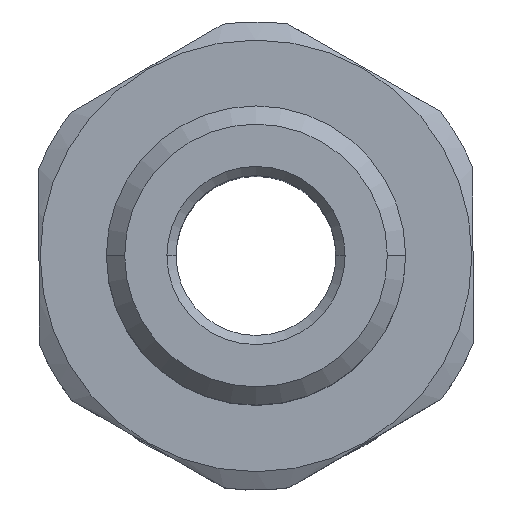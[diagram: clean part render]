
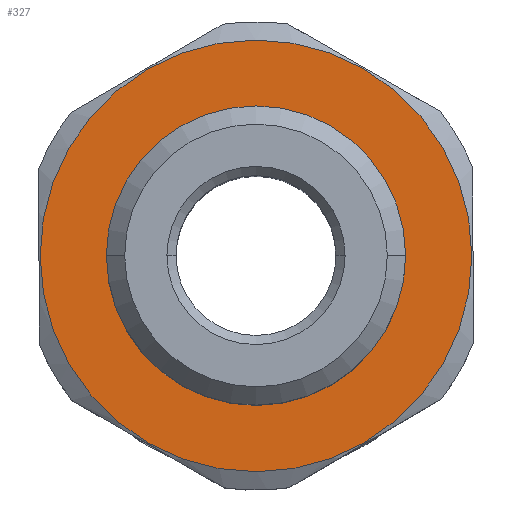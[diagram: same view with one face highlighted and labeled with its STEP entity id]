
A CAD part, top view. The second image highlights one B-rep face of the part: STEP entity #327.
In plain terms, the highlighted planar face has unit normal (0, 0, 1).
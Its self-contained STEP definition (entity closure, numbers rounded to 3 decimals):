
#327 = ADVANCED_FACE ( 'NONE', ( #1716, #1717 ), #1987, .F. ) ;
#350 = EDGE_CURVE ( 'NONE', #874, #871, #505, .T. ) ;
#351 = EDGE_CURVE ( 'NONE', #900, #897, #508, .T. ) ;
#505 = CIRCLE ( 'NONE', #507, 6.55 ) ;
#507 = AXIS2_PLACEMENT_3D ( 'NONE', #1021, #1022, #1023 ) ;
#508 = CIRCLE ( 'NONE', #509, 9.45 ) ;
#509 = AXIS2_PLACEMENT_3D ( 'NONE', #1024, #1025, #1026 ) ;
#546 = CIRCLE ( 'NONE', #556, 9.45 ) ;
#556 = AXIS2_PLACEMENT_3D ( 'NONE', #1179, #1180, #1181 ) ;
#589 = CIRCLE ( 'NONE', #603, 6.55 ) ;
#603 = AXIS2_PLACEMENT_3D ( 'NONE', #1769, #1770, #1771 ) ;
#665 = EDGE_CURVE ( 'NONE', #897, #900, #546, .T. ) ;
#769 = EDGE_CURVE ( 'NONE', #871, #874, #589, .T. ) ;
#871 = VERTEX_POINT ( 'NONE', #1829 ) ;
#874 = VERTEX_POINT ( 'NONE', #1832 ) ;
#897 = VERTEX_POINT ( 'NONE', #1855 ) ;
#900 = VERTEX_POINT ( 'NONE', #1858 ) ;
#908 = ORIENTED_EDGE ( 'NONE', *, *, #350, .T. ) ;
#924 = ORIENTED_EDGE ( 'NONE', *, *, #769, .T. ) ;
#931 = ORIENTED_EDGE ( 'NONE', *, *, #351, .F. ) ;
#934 = ORIENTED_EDGE ( 'NONE', *, *, #665, .F. ) ;
#966 = EDGE_LOOP ( 'NONE', ( #934, #931 ) ) ;
#977 = EDGE_LOOP ( 'NONE', ( #924, #908 ) ) ;
#1021 = CARTESIAN_POINT ( 'NONE',  ( 0., 0., 5. ) ) ;
#1022 = DIRECTION ( 'NONE',  ( 0., 0., -1. ) ) ;
#1023 = DIRECTION ( 'NONE',  ( -1., -0.002, 0. ) ) ;
#1024 = CARTESIAN_POINT ( 'NONE',  ( 0., 0., 5. ) ) ;
#1025 = DIRECTION ( 'NONE',  ( 0., 0., -1. ) ) ;
#1026 = DIRECTION ( 'NONE',  ( -1., -0.002, 0. ) ) ;
#1179 = CARTESIAN_POINT ( 'NONE',  ( 0., 0., 5. ) ) ;
#1180 = DIRECTION ( 'NONE',  ( 0., 0., -1. ) ) ;
#1181 = DIRECTION ( 'NONE',  ( -1., -0.002, 0. ) ) ;
#1716 = FACE_BOUND ( 'NONE', #977, .T. ) ;
#1717 = FACE_OUTER_BOUND ( 'NONE', #966, .T. ) ;
#1769 = CARTESIAN_POINT ( 'NONE',  ( 0., 0., 5. ) ) ;
#1770 = DIRECTION ( 'NONE',  ( 0., 0., -1. ) ) ;
#1771 = DIRECTION ( 'NONE',  ( -1., -0.002, 0. ) ) ;
#1829 = CARTESIAN_POINT ( 'NONE',  ( -6.55, -0.015, 5. ) ) ;
#1832 = CARTESIAN_POINT ( 'NONE',  ( 6.55, 0.015, 5. ) ) ;
#1855 = CARTESIAN_POINT ( 'NONE',  ( -9.45, -0.022, 5. ) ) ;
#1858 = CARTESIAN_POINT ( 'NONE',  ( 9.45, 0.022, 5. ) ) ;
#1974 = DIRECTION ( 'NONE',  ( -1., -0.002, 0. ) ) ;
#1975 = DIRECTION ( 'NONE',  ( 0., 0., -1. ) ) ;
#1986 = CARTESIAN_POINT ( 'NONE',  ( -0.022, 9.5, 5. ) ) ;
#1987 = PLANE ( 'NONE',  #2159 ) ;
#2159 = AXIS2_PLACEMENT_3D ( 'NONE', #1986, #1975, #1974 ) ;
